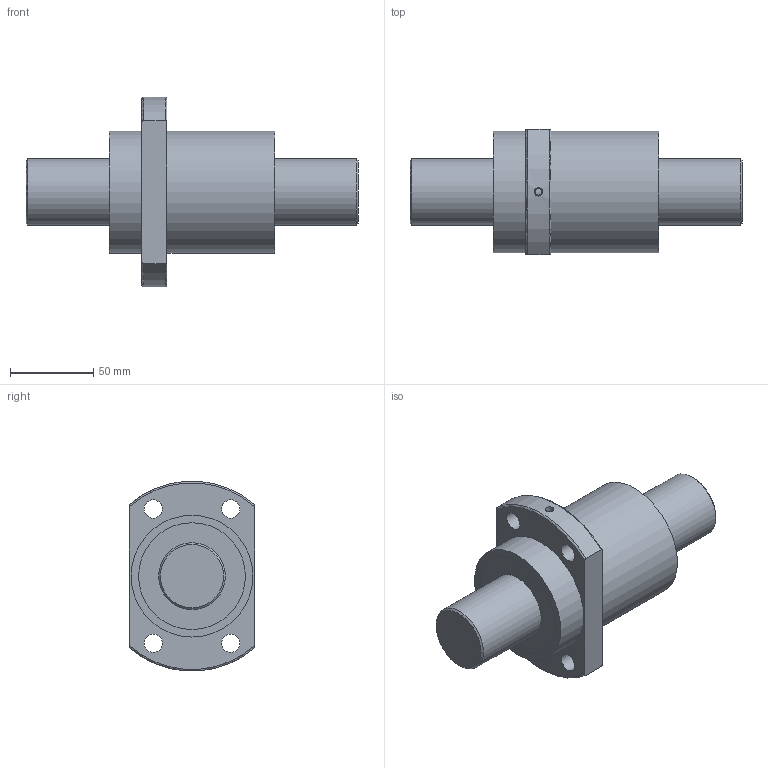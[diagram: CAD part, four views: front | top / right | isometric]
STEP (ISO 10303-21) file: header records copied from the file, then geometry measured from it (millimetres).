
FILE_DESCRIPTION (( 'STEP AP203' ), '1' );
FILE_NAME ('SFYA4040-3.6.STEP', '2023-05-25T05:23:36', ( '' ), ( '' ), 'SwSTEP 2.0', 'SolidWorks 2022', '' );
FILE_SCHEMA (( 'CONFIG_CONTROL_DESIGN' ));
Length unit declared in the file: millimetre
Products named in the file (1): SFYA4040-3.6
Bounding box: 199 x 75 x 113.82 mm (x, y, z)
Volume: 589099.6 mm3; surface area: 94566 mm2
Topology: 4 solids, 4 shells, 55 faces, 106 edges, 70 vertices
Faces by surface type: cylinder 26, plane 22, torus 4, cone 3
Full cylindrical faces by diameter (mm): 4 x1, 5 x1, 11 x4, 40 x4, 58 x4, 64 x4, 65.5 x4, 73 x2
Entity records: 1662 total; most frequent: CARTESIAN_POINT 531, DIRECTION 232, ORIENTED_EDGE 148, AXIS2_PLACEMENT_3D 112, EDGE_LOOP 110, FACE_OUTER_BOUND 79, EDGE_CURVE 74, VERTEX_POINT 66
